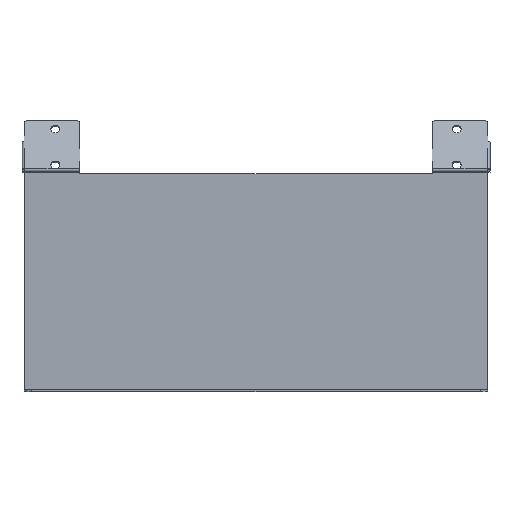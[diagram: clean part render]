
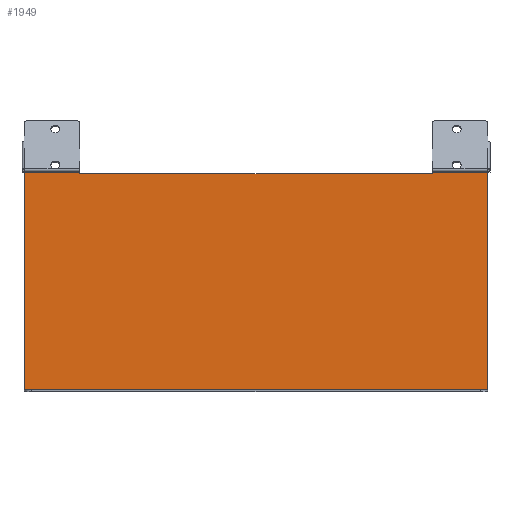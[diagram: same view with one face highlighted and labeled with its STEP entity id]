
A CAD part, top view. The second image highlights one B-rep face of the part: STEP entity #1949.
In plain terms, the highlighted planar face has unit normal (0, 0, 1).
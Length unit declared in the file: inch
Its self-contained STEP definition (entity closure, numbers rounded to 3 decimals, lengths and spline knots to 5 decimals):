
#72 = ORIENTED_EDGE ( 'NONE', *, *, #2511, .F. ) ;
#112 = ORIENTED_EDGE ( 'NONE', *, *, #147, .T. ) ;
#128 = CARTESIAN_POINT ( 'NONE',  ( 8.075, -3.7123, 0. ) ) ;
#136 = VECTOR ( 'NONE', #1529, 39.37008 ) ;
#147 = EDGE_CURVE ( 'NONE', #1970, #2078, #1545, .T. ) ;
#204 = LINE ( 'NONE', #1612, #2609 ) ;
#208 = VECTOR ( 'NONE', #1600, 39.37008 ) ;
#253 = AXIS2_PLACEMENT_3D ( 'NONE', #539, #785, #2411 ) ;
#286 = EDGE_CURVE ( 'NONE', #2327, #2774, #527, .T. ) ;
#293 = DIRECTION ( 'NONE',  ( 1., 0., 0. ) ) ;
#302 = CARTESIAN_POINT ( 'NONE',  ( -8.075, -3.7123, 0. ) ) ;
#422 = EDGE_CURVE ( 'NONE', #1970, #1342, #3001, .T. ) ;
#466 = CARTESIAN_POINT ( 'NONE',  ( 6.145, 3.8563, 0. ) ) ;
#471 = LINE ( 'NONE', #1213, #526 ) ;
#500 = EDGE_CURVE ( 'NONE', #776, #2078, #711, .T. ) ;
#526 = VECTOR ( 'NONE', #1435, 39.37008 ) ;
#527 = LINE ( 'NONE', #2967, #1283 ) ;
#539 = CARTESIAN_POINT ( 'NONE',  ( 0., 0., 0. ) ) ;
#711 = LINE ( 'NONE', #1504, #759 ) ;
#737 = CARTESIAN_POINT ( 'NONE',  ( -8.075, 3.8563, 0. ) ) ;
#759 = VECTOR ( 'NONE', #2218, 39.37008 ) ;
#776 = VERTEX_POINT ( 'NONE', #466 ) ;
#777 = ORIENTED_EDGE ( 'NONE', *, *, #286, .T. ) ;
#785 = DIRECTION ( 'NONE',  ( 0., 0., -1. ) ) ;
#839 = LINE ( 'NONE', #3010, #208 ) ;
#951 = ORIENTED_EDGE ( 'NONE', *, *, #1301, .T. ) ;
#1112 = ORIENTED_EDGE ( 'NONE', *, *, #422, .F. ) ;
#1213 = CARTESIAN_POINT ( 'NONE',  ( 6.145, 3.8563, 0. ) ) ;
#1283 = VECTOR ( 'NONE', #2512, 39.37008 ) ;
#1288 = VECTOR ( 'NONE', #1524, 39.37008 ) ;
#1301 = EDGE_CURVE ( 'NONE', #776, #2327, #471, .T. ) ;
#1342 = VERTEX_POINT ( 'NONE', #302 ) ;
#1345 = CARTESIAN_POINT ( 'NONE',  ( 6.145, 3.795, 0. ) ) ;
#1386 = DIRECTION ( 'NONE',  ( 0., 1., 0. ) ) ;
#1435 = DIRECTION ( 'NONE',  ( 0., -1., 0. ) ) ;
#1504 = CARTESIAN_POINT ( 'NONE',  ( 6.145, 3.8563, 0. ) ) ;
#1524 = DIRECTION ( 'NONE',  ( -1., 0., 0. ) ) ;
#1529 = DIRECTION ( 'NONE',  ( 0., -1., 0. ) ) ;
#1545 = LINE ( 'NONE', #3021, #2788 ) ;
#1600 = DIRECTION ( 'NONE',  ( 0., -1., 0. ) ) ;
#1612 = CARTESIAN_POINT ( 'NONE',  ( -8.075, 3.8563, 0. ) ) ;
#1617 = CARTESIAN_POINT ( 'NONE',  ( -8.075, -3.795, 0. ) ) ;
#1695 = CARTESIAN_POINT ( 'NONE',  ( -6.145, 3.795, 0. ) ) ;
#1855 = VERTEX_POINT ( 'NONE', #737 ) ;
#1940 = PLANE ( 'NONE',  #253 ) ;
#1949 = ADVANCED_FACE ( 'NONE', ( #2290 ), #1940, .F. ) ;
#1967 = ORIENTED_EDGE ( 'NONE', *, *, #2548, .T. ) ;
#1970 = VERTEX_POINT ( 'NONE', #2643 ) ;
#1973 = CARTESIAN_POINT ( 'NONE',  ( 8.075, 3.8563, 0. ) ) ;
#1995 = LINE ( 'NONE', #1617, #136 ) ;
#2019 = ORIENTED_EDGE ( 'NONE', *, *, #500, .F. ) ;
#2078 = VERTEX_POINT ( 'NONE', #1973 ) ;
#2081 = ORIENTED_EDGE ( 'NONE', *, *, #3014, .F. ) ;
#2121 = VERTEX_POINT ( 'NONE', #2673 ) ;
#2158 = EDGE_LOOP ( 'NONE', ( #1112, #112, #2019, #951, #777, #72, #2081, #1967 ) ) ;
#2218 = DIRECTION ( 'NONE',  ( 1., 0., 0. ) ) ;
#2290 = FACE_OUTER_BOUND ( 'NONE', #2158, .T. ) ;
#2327 = VERTEX_POINT ( 'NONE', #1345 ) ;
#2411 = DIRECTION ( 'NONE',  ( -1., 0., 0. ) ) ;
#2511 = EDGE_CURVE ( 'NONE', #2121, #2774, #839, .T. ) ;
#2512 = DIRECTION ( 'NONE',  ( -1., 0., 0. ) ) ;
#2548 = EDGE_CURVE ( 'NONE', #1855, #1342, #1995, .T. ) ;
#2609 = VECTOR ( 'NONE', #293, 39.37008 ) ;
#2643 = CARTESIAN_POINT ( 'NONE',  ( 8.075, -3.7123, 0. ) ) ;
#2673 = CARTESIAN_POINT ( 'NONE',  ( -6.145, 3.8563, 0. ) ) ;
#2774 = VERTEX_POINT ( 'NONE', #1695 ) ;
#2788 = VECTOR ( 'NONE', #1386, 39.37008 ) ;
#2967 = CARTESIAN_POINT ( 'NONE',  ( -8.075, 3.795, 0. ) ) ;
#3001 = LINE ( 'NONE', #128, #1288 ) ;
#3010 = CARTESIAN_POINT ( 'NONE',  ( -6.145, 3.8563, 0. ) ) ;
#3014 = EDGE_CURVE ( 'NONE', #1855, #2121, #204, .T. ) ;
#3021 = CARTESIAN_POINT ( 'NONE',  ( 8.075, -3.795, 0. ) ) ;
